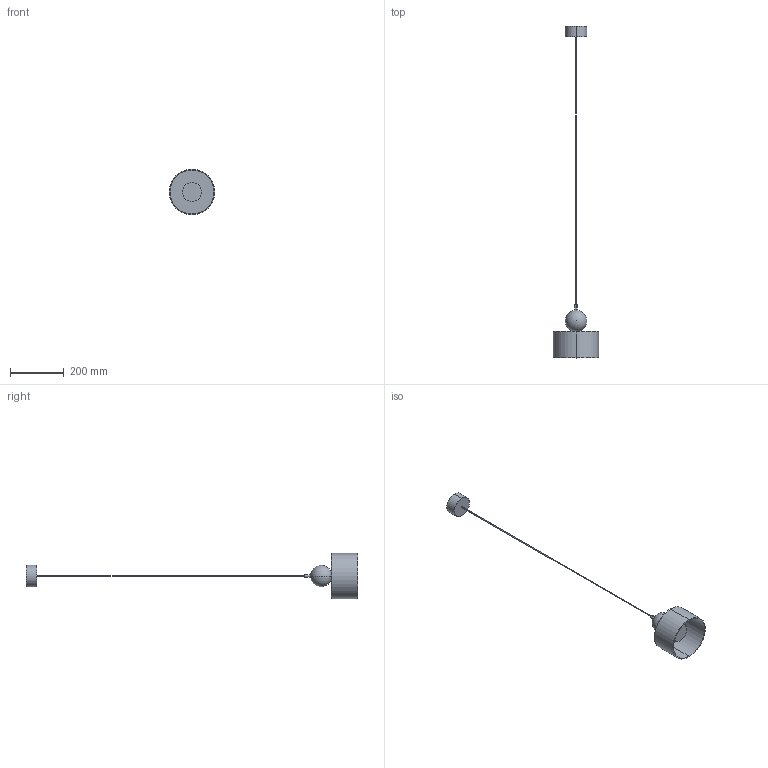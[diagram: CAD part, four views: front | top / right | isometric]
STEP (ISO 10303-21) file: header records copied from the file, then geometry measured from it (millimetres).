
FILE_DESCRIPTION (( 'STEP AP214' ), '1' );
FILE_NAME ('CURN_C1080.STEP', '2026-01-30T09:42:19', ( '' ), ( '' ), 'SwSTEP 2.0', 'SolidWorks 2023', '' );
FILE_SCHEMA (( 'AUTOMOTIVE_DESIGN' ));
Length unit declared in the file: millimetre
Products named in the file (1): CURN_C1080
Bounding box: 170 x 1239 x 170 mm (x, y, z)
Volume: 716873.5 mm3; surface area: 226476.8 mm2
Topology: 6 solids, 6 shells, 30 faces, 53 edges, 35 vertices
Faces by surface type: cylinder 14, plane 12, torus 2, sphere 2
Entity records: 774 total; most frequent: DIRECTION 144, CARTESIAN_POINT 111, ORIENTED_EDGE 96, AXIS2_PLACEMENT_3D 65, EDGE_CURVE 48, CIRCLE 34, EDGE_LOOP 32, VERTEX_POINT 32
